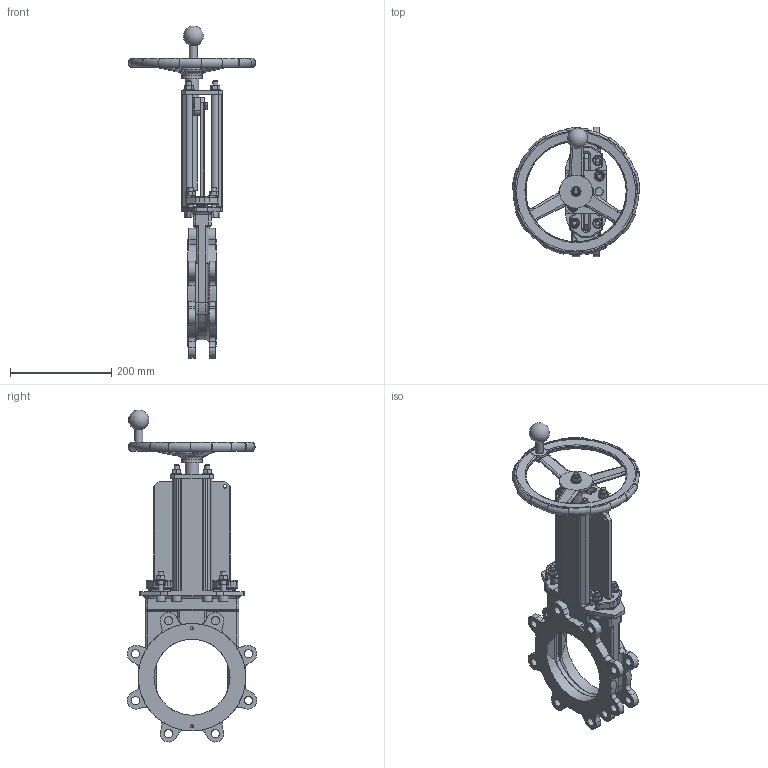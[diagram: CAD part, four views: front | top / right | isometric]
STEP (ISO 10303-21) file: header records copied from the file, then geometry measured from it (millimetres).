
FILE_DESCRIPTION(/* description */ (''),/* implementation_level */ '2;1');
FILE_NAME(/* name */ 'F:\3D Sammanställningar\WB\DN150\WB14E-DN150-ANSI150-HW.stp',/* time_stamp */ '2021-06-30T11:45:05+02:00',/* author */ ('MATZET'),/* organization */ (''),/* preprocessor_version */ 'ST-DEVELOPER v18',/* originating_system */ 'Autodesk Inventor 2020',/* authorisation */ '');
FILE_SCHEMA (('AUTOMOTIVE_DESIGN { 1 0 10303 214 3 1 1 }'));
Length unit declared in the file: millimetre
Products named in the file (1): WB14E-DN150-PN10-HW_Shrinkwrap_2
Bounding box: 251.79 x 255.71 x 655.21 mm (x, y, z)
Volume: 2490265 mm3; surface area: 669889.7 mm2
Topology: 1 solids, 1 shells, 1368 faces, 3594 edges, 2262 vertices
Faces by surface type: plane 599, cylinder 411, torus 137, bspline 121, cone 87, sphere 13
Full cylindrical faces by diameter (mm): 6 x2, 6.75 x2, 7 x1, 8.376 x5, 10 x25, 10.5 x8, 11 x4, 11.63 x2, 13 x2, 15 x1, 15.5 x1, 16 x3, 16.307 x16, 20 x10, 27 x2, 40 x1, 150 x2, 212 x2, 235 x1
Entity records: 45930 total; most frequent: CARTESIAN_POINT 11931, ORIENTED_EDGE 7164, DIRECTION 6949, EDGE_CURVE 3582, AXIS2_PLACEMENT_3D 2604, VERTEX_POINT 2262, LINE 1741, VECTOR 1741
